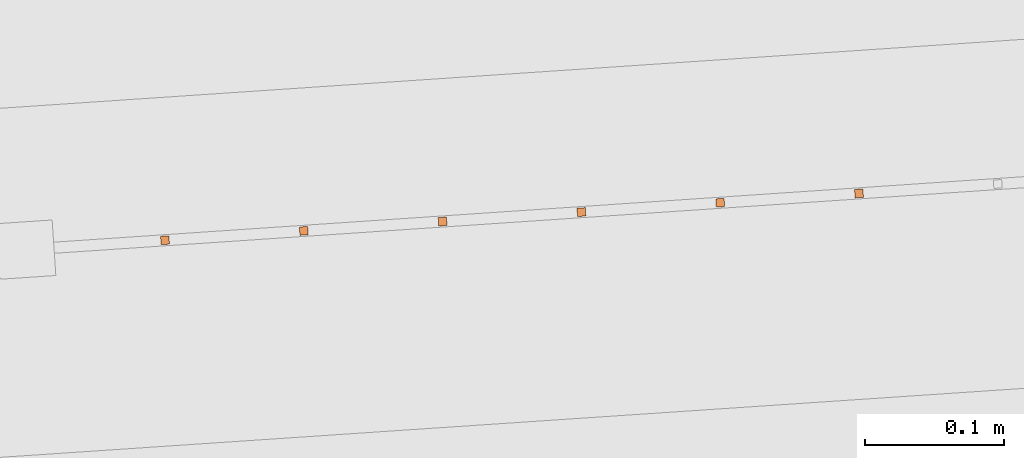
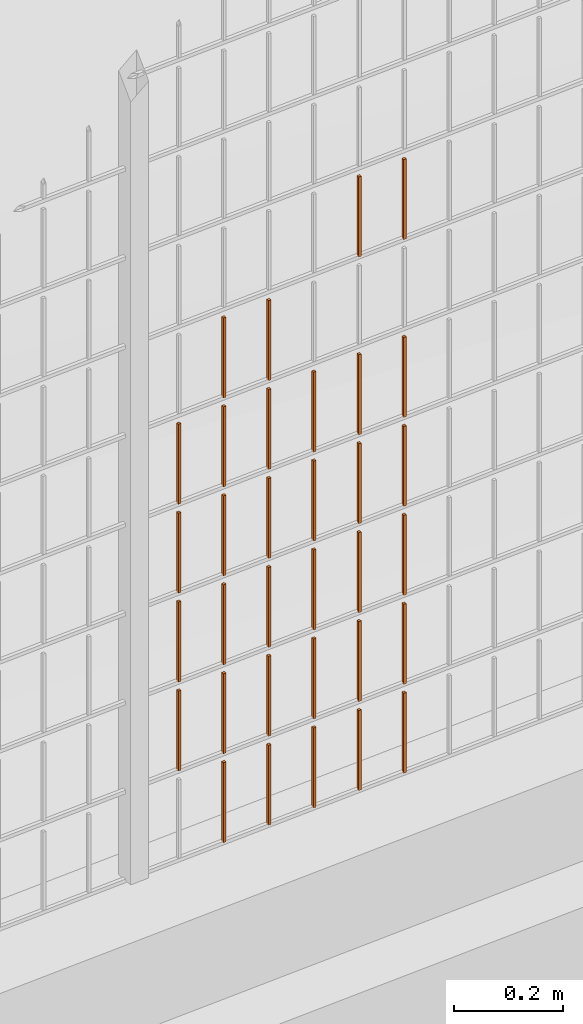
# One storey, part 386 of 1809: 33 proxies, 1 element without a shape of its own.
"""IFC2X3 building model written with IfcOpenShell, lengths in millimetres."""

import ifcopenshell
import ifcopenshell.guid

model = None  # the IFC model being written
_history = None  # IfcOwnerHistory: only IFC2X3 demands one
_inside = {}  # id of a spatial element -> (the spatial element, [elements in it])
_under = {}  # id of a project, library or spatial element -> (it, [spatial elements below it])
_declared = {}  # id of a project -> (the project, [libraries it declares])
_typed = {}  # id of a type object -> (the type object, [elements of that type])
_made_of = {}  # id of a material, layer set ... -> (it, [elements and type objects made of it])


def new_model(schema):
    """Start an empty IFC model of exactly this schema.

    Asked for "IFC4X3", IfcOpenShell would pick the latest addendum, in which some entities
    have other attributes; the version numbers below select the first issue.
    IFC2X3 requires an IfcOwnerHistory on every rooted entity: one is made here for all.
    """
    global model, _history
    if schema == "IFC4X3":
        model = ifcopenshell.file(schema_version=(4, 3, 0, 0))
    else:
        model = ifcopenshell.file(schema=schema)
    _inside.clear()
    _under.clear()
    _declared.clear()
    _typed.clear()
    _made_of.clear()
    _history = None
    if model.schema == "IFC2X3":
        org = make("IfcOrganization", Name="unknown")
        user = make(
            "IfcPersonAndOrganization",
            ThePerson=make("IfcPerson", FamilyName="unknown"),
            TheOrganization=org,
        )
        app = make(
            "IfcApplication",
            ApplicationDeveloper=org,
            Version="unknown",
            ApplicationFullName="unknown",
            ApplicationIdentifier="unknown",
        )
        _history = make(
            "IfcOwnerHistory",
            OwningUser=user,
            OwningApplication=app,
            ChangeAction="ADDED",
            CreationDate=0,
        )
    return model


def make(cls, **values):
    """One entity of the class cls with the attributes given. An attribute that is None is left unset."""
    return model.create_entity(
        cls, **{name: value for name, value in values.items() if value is not None}
    )


def entity(cls, *values):
    """Any entity or typed value of the class cls, its attributes in the order of the schema. None: left unset."""
    e = model.create_entity(cls)
    for i, value in enumerate(values):
        if value is not None:
            e[i] = value
    return e


def rooted(cls, **values):
    """An entity with a GlobalId (a new one), such as an element, a storey or a relation."""
    return make(cls, GlobalId=ifcopenshell.guid.new(), OwnerHistory=_history, **values)


def si_unit(unit_type, name, prefix=None):
    """IfcSIUnit, for example si_unit("LENGTHUNIT", "METRE", prefix="MILLI")."""
    return make("IfcSIUnit", UnitType=unit_type, Prefix=prefix, Name=name)


def converted_unit(unit_type, name, factor, base, dimensions=None, offset=None):
    """IfcConversionBasedUnit, such as the inch: factor (a typed value) times the base unit."""
    return make(
        "IfcConversionBasedUnit"
        if offset is None
        else "IfcConversionBasedUnitWithOffset",
        ConversionOffset=offset,
        Dimensions=None
        if dimensions is None
        else entity("IfcDimensionalExponents", *dimensions),
        UnitType=unit_type,
        Name=name,
        ConversionFactor=make(
            "IfcMeasureWithUnit", ValueComponent=factor, UnitComponent=base
        ),
    )


def derived_unit(unit_type, elements):
    """IfcDerivedUnit: a product of units, each with its exponent."""
    return make(
        "IfcDerivedUnit",
        Elements=[
            make("IfcDerivedUnitElement", Unit=unit, Exponent=power)
            for unit, power in elements
        ],
        UnitType=unit_type,
    )


def money_unit(currency):
    """IfcMonetaryUnit."""
    return make("IfcMonetaryUnit", Currency=currency)


def assignment(units):
    """IfcUnitAssignment: the units of a project."""
    return None if units is None else make("IfcUnitAssignment", Units=units)


def point(xyz):
    """IfcCartesianPoint."""
    return None if xyz is None else make("IfcCartesianPoint", Coordinates=xyz)


def direction(xyz):
    """IfcDirection."""
    return None if xyz is None else make("IfcDirection", DirectionRatios=xyz)


def frame(location, z_axis=None, x_axis=None):
    """IfcAxis2Placement3D, a coordinate frame: its origin and axes. An axis left out is left unset."""
    return make(
        "IfcAxis2Placement3D",
        Location=point(location),
        Axis=direction(z_axis),
        RefDirection=direction(x_axis),
    )


def origin_with_axes():
    """The frame at (0, 0, 0) with the z axis (0, 0, 1) and the x axis (1, 0, 0) written out."""
    return frame((0.0, 0.0, 0.0), z_axis=(0.0, 0.0, 1.0), x_axis=(1.0, 0.0, 0.0))


def place(relative_to, where):
    """IfcLocalPlacement: puts the frame where relative to a parent placement (None: the world)."""
    return make(
        "IfcLocalPlacement", PlacementRelTo=relative_to, RelativePlacement=where
    )


def context(
    kind, dimensions, precision=None, world=None, true_north=None, identifier=None
):
    """IfcGeometricRepresentationContext, for example the 3D "Model" context."""
    return make(
        "IfcGeometricRepresentationContext",
        ContextIdentifier=identifier,
        ContextType=kind,
        CoordinateSpaceDimension=dimensions,
        Precision=precision,
        WorldCoordinateSystem=world,
        TrueNorth=true_north,
    )


def subcontext(parent, identifier, kind, view, scale=None):
    """IfcGeometricRepresentationSubContext, for example "Body" below "Model"."""
    return make(
        "IfcGeometricRepresentationSubContext",
        ContextIdentifier=identifier,
        ContextType=kind,
        ParentContext=parent,
        TargetScale=scale,
        TargetView=view,
    )


def project(units=None, contexts=None):
    """IfcProject with its units and contexts."""
    return rooted(
        "IfcProject",
        Name="project",
        RepresentationContexts=contexts,
        UnitsInContext=assignment(units),
    )


def spatial(cls, under=None, at=None, **own):
    """A site, building, storey or space (cls), placed at a placement, below another one or the project."""
    s = rooted(cls, ObjectPlacement=at, **own)
    if under is not None:
        _under.setdefault(under.id(), (under, []))[1].append(s)
    return s


def faces_of(points, faces, orient=None, outer=None):
    """IfcFace entities. A face is a list of loops; a loop is a list of indices into points, from 0.

    orient and outer hold one flag for each loop. By default every Orientation is true, the
    first loop of a face is its IfcFaceOuterBound and the others are IfcFaceBound.
    """
    made = []
    for i, loops in enumerate(faces):
        bounds = []
        for j, loop in enumerate(loops):
            is_outer = j == 0 if outer is None else outer[i][j]
            bounds.append(
                make(
                    "IfcFaceOuterBound" if is_outer else "IfcFaceBound",
                    Bound=make("IfcPolyLoop", Polygon=[points[k] for k in loop]),
                    Orientation=True if orient is None else orient[i][j],
                )
            )
        made.append(make("IfcFace", Bounds=bounds))
    return made


def faceted_brep(points, faces, orient=None, outer=None, voids=None):
    """IfcFacetedBrep: a solid bounded by flat faces; with voids (closed shells), ...WithVoids."""
    shared = [point(p) for p in points]
    hull = make("IfcClosedShell", CfsFaces=faces_of(shared, faces, orient, outer))
    if voids is None:
        return make("IfcFacetedBrep", Outer=hull)
    return make(
        "IfcFacetedBrepWithVoids",
        Outer=hull,
        Voids=[
            make(cls, CfsFaces=faces_of(shared, fs, o, b)) for cls, fs, o, b in voids
        ],
    )


def shape(context_of_items, identifier, shape_type, items):
    """IfcShapeRepresentation: the items that make up one representation, for example the "Body"."""
    return make(
        "IfcShapeRepresentation",
        ContextOfItems=context_of_items,
        RepresentationIdentifier=identifier,
        RepresentationType=shape_type,
        Items=items,
    )


def source(mapping_origin, context_of_items, identifier, shape_type, items):
    """IfcRepresentationMap: a shape defined once, which mapped items show again and again."""
    return make(
        "IfcRepresentationMap",
        MappingOrigin=mapping_origin,
        MappedRepresentation=shape(context_of_items, identifier, shape_type, items),
    )


def transform(
    local_origin,
    x_axis=None,
    y_axis=None,
    z_axis=None,
    scale=None,
    scale2=None,
    scale3=None,
    uniform=True,
):
    """IfcCartesianTransformationOperator3D, or its non-uniform kind. x_axis, y_axis, z_axis: its Axis1, 2, 3."""
    if uniform:
        return make(
            "IfcCartesianTransformationOperator3D",
            Axis1=direction(x_axis),
            Axis2=direction(y_axis),
            LocalOrigin=point(local_origin),
            Scale=scale,
            Axis3=direction(z_axis),
        )
    return make(
        "IfcCartesianTransformationOperator3DnonUniform",
        Axis1=direction(x_axis),
        Axis2=direction(y_axis),
        LocalOrigin=point(local_origin),
        Scale=scale,
        Axis3=direction(z_axis),
        Scale2=scale2,
        Scale3=scale3,
    )


def mapped(mapping_source, mapping_target):
    """IfcMappedItem: shows the shape of a source again, moved by a transform."""
    return make(
        "IfcMappedItem", MappingSource=mapping_source, MappingTarget=mapping_target
    )


def material(Name=None, Category=None):
    """IfcMaterial."""
    return make("IfcMaterial", Name=Name, Category=Category)


def made_of(thing, what):
    """Note that an element or type object is made of a material, layer set ...; save() writes the relation."""
    if what is not None:
        _made_of.setdefault(what.id(), (what, []))[1].append(thing)
    return thing


def type_object(cls, material=None, **own):
    """A type object (cls), such as IfcWallType, which elements share."""
    return made_of(rooted(cls, **own), material)


def element(
    cls,
    number,
    at=None,
    inside=None,
    cuts=None,
    type_object=None,
    material=None,
    context=None,
    identifier="Body",
    shape_type=None,
    held_by="IfcProductDefinitionShape",
    body=None,
    shapes=None,
    **own,
):
    """One element of the class cls, such as IfcWall. Its Tag is "e" and its number.

    at: its placement. inside: the storey or other place that contains it. cuts: it is an
    opening in that element (IfcRelVoidsElement). A single representation is given by context,
    identifier, shape_type and body (its items); several are given by shapes. held_by: the class
    of the entity that holds the representations. save() writes the other relations.
    """
    e = rooted(cls, Tag="e%d" % number, ObjectPlacement=at, **own)
    if body is not None:
        shapes = [shape(context, identifier, shape_type, body)]
    if shapes is not None:
        e.Representation = make(held_by, Representations=shapes)
    if inside is not None:
        _inside.setdefault(inside.id(), (inside, []))[1].append(e)
    if cuts is not None:
        rooted(
            "IfcRelVoidsElement", RelatingBuildingElement=cuts, RelatedOpeningElement=e
        )
    if type_object is not None:
        _typed.setdefault(type_object.id(), (type_object, []))[1].append(e)
    return made_of(e, material)


def aggregate(whole, parts):
    """IfcRelAggregates: a whole, such as a stair, and the parts it consists of."""
    return rooted("IfcRelAggregates", RelatingObject=whole, RelatedObjects=parts)


def save(model, path):
    """Write the relations noted so far, then the file.

    IfcRelAggregates (storeys below a building ...), IfcRelContainedInSpatialStructure (elements
    in a storey), IfcRelDefinesByType, IfcRelAssociatesMaterial and IfcRelDeclares: one each for
    every whole, place, type object, material and project.
    """
    for whole, parts in _under.values():
        aggregate(whole, parts)
    for where, things in _inside.values():
        rooted(
            "IfcRelContainedInSpatialStructure",
            RelatedElements=things,
            RelatingStructure=where,
        )
    for kind, things in _typed.values():
        rooted("IfcRelDefinesByType", RelatedObjects=things, RelatingType=kind)
    for what, things in _made_of.values():
        rooted("IfcRelAssociatesMaterial", RelatedObjects=things, RelatingMaterial=what)
    for by, libraries in _declared.values():
        rooted("IfcRelDeclares", RelatingContext=by, RelatedDefinitions=libraries)
    model.write(path)


model = new_model("IFC2X3")

# Units and contexts
model_context = context("Model", 3, precision=0.01, world=origin_with_axes(), true_north=direction((0.0, 1.0)))
body_context = subcontext(model_context, "Body", "Model", "MODEL_VIEW")
ifc_project = project(units=[si_unit("LENGTHUNIT", "METRE", prefix="MILLI"), si_unit("AREAUNIT", "SQUARE_METRE"), si_unit("VOLUMEUNIT", "CUBIC_METRE"), converted_unit("PLANEANGLEUNIT", "DEGREE", entity("IfcPlaneAngleMeasure", 0.0174532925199), si_unit("PLANEANGLEUNIT", "RADIAN"), dimensions=[0, 0, 0, 0, 0, 0, 0]), si_unit("SOLIDANGLEUNIT", "STERADIAN"), money_unit("EUR"), converted_unit("TIMEUNIT", "Year", entity("IfcTimeMeasure", 31556926.0), si_unit("TIMEUNIT", "SECOND"), dimensions=[0, 0, 1, 0, 0, 0, 0]), si_unit("MASSUNIT", "GRAM", prefix="KILO"), si_unit("THERMODYNAMICTEMPERATUREUNIT", "DEGREE_CELSIUS"), si_unit("LUMINOUSINTENSITYUNIT", "LUMEN"), si_unit("ENERGYUNIT", "JOULE", prefix="MEGA"), derived_unit("THERMALCONDUCTANCEUNIT", [(si_unit("POWERUNIT", "WATT"), 1), (si_unit("LENGTHUNIT", "METRE"), -1), (si_unit("THERMODYNAMICTEMPERATUREUNIT", "KELVIN"), -1)]), derived_unit("SPECIFICHEATCAPACITYUNIT", [(si_unit("ENERGYUNIT", "JOULE"), 1), (si_unit("MASSUNIT", "GRAM", prefix="KILO"), -1), (si_unit("THERMODYNAMICTEMPERATUREUNIT", "KELVIN"), -1)]), derived_unit("MASSDENSITYUNIT", [(si_unit("MASSUNIT", "GRAM", prefix="KILO"), 1), (si_unit("VOLUMEUNIT", "CUBIC_METRE"), -1)])], contexts=[model_context])

# Site, building, storey
site_placement = place(None, origin_with_axes())
site = spatial("IfcSite", under=ifc_project, at=site_placement, Name="Politse- ja Piirivalveameti ning Päästeameti ühishoone", CompositionType="ELEMENT")
building_placement = place(site_placement, origin_with_axes())
building = spatial("IfcBuilding", under=site, at=building_placement, Name="Politse- ja Piirivalveameti ning Päästeameti ühishoone", CompositionType="ELEMENT")
storey_placement = place(building_placement, origin_with_axes())
storey = spatial("IfcBuildingStorey", under=building, at=storey_placement, Name="Esimene korrus", CompositionType="ELEMENT", Elevation=0.0)

# Proxies
building_element_proxy_type_1 = type_object("IfcBuildingElementProxyType", Name="Railing Type", PredefinedType="NOTDEFINED")
proxy_1_placement = place(storey_placement, frame((89252.001212, -29183.4766571, 203.661247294), z_axis=(0.0, 0.0, 1.0), x_axis=(1.0, 0.0, 0.0)))
proxy_1 = element("IfcBuildingElementProxy", 1, at=proxy_1_placement, inside=storey, type_object=building_element_proxy_type_1, Name="PIIRDEAED")
ifc_material = material(Name="ET-03_Raud")
building_element_proxy_type_2 = type_object("IfcBuildingElementProxyType", Name="IfcBuildingElementProxy", PredefinedType="NOTDEFINED")
shared_shape_1 = source(origin_with_axes(), body_context, "Body", "Brep", [
    faceted_brep([(3.0, 3.0, -0.000752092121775), (-3.0, 3.0, -0.000752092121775), (-3.0, 3.0, 179.99926046), (3.0, 3.0, 179.99926046), (3.0, -3.0, 0.000752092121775), (-3.0, -3.0, 0.000752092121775), (-3.0, -3.0, 180.000764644), (3.0, -3.0, 180.000764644)], [[[0, 1, 2, 3]], [[0, 4, 5, 1]], [[1, 5, 6, 2]], [[3, 2, 6, 7]], [[4, 0, 3, 7]], [[5, 4, 7, 6]]]),
])
proxy_2_placement = place(proxy_1_placement, frame((-14294.1166775, -18263.2883991, 23.6427224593), z_axis=(0.0, 0.0, 1.0), x_axis=(1.0, 0.0, 0.0)))
proxy_2 = element("IfcBuildingElementProxy", 2, at=proxy_2_placement, type_object=building_element_proxy_type_2, material=ifc_material, Name="BALUSTER - 001", context=body_context, shape_type="MappedRepresentation", body=[
    mapped(shared_shape_1, transform((0.0, 0.0, 0.0), x_axis=(-0.0673926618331, 0.997726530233, 0.0), y_axis=(-0.997726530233, -0.0673926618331, 0.0), z_axis=(0.0, 0.0, 1.0))),
])
shared_shape_2 = source(origin_with_axes(), body_context, "Body", "Brep", [
    faceted_brep([(3.0, 3.0, -0.000752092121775), (-3.0, 3.0, -0.000752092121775), (-3.0, 3.0, 179.99926046), (3.0, 3.0, 179.99926046), (3.0, -3.0, 0.000752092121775), (-3.0, -3.0, 0.000752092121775), (-3.0, -3.0, 180.000764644), (3.0, -3.0, 180.000764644)], [[[0, 1, 2, 3]], [[0, 4, 5, 1]], [[1, 5, 6, 2]], [[3, 2, 6, 7]], [[4, 0, 3, 7]], [[5, 4, 7, 6]]]),
])
proxy_3_placement = place(proxy_1_placement, frame((-14294.1166775, -18263.2883991, 223.642722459), z_axis=(0.0, 0.0, 1.0), x_axis=(1.0, 0.0, 0.0)))
proxy_3 = element("IfcBuildingElementProxy", 3, at=proxy_3_placement, type_object=building_element_proxy_type_2, material=ifc_material, Name="BALUSTER - 001", context=body_context, shape_type="MappedRepresentation", body=[
    mapped(shared_shape_2, transform((0.0, 0.0, 0.0), x_axis=(-0.0673926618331, 0.997726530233, 0.0), y_axis=(-0.997726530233, -0.0673926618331, 0.0), z_axis=(0.0, 0.0, 1.0))),
])
shared_shape_3 = source(origin_with_axes(), body_context, "Body", "Brep", [
    faceted_brep([(3.0, 3.0, -0.000752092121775), (-3.0, 3.0, -0.000752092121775), (-3.0, 3.0, 179.99926046), (3.0, 3.0, 179.99926046), (3.0, -3.0, 0.000752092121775), (-3.0, -3.0, 0.000752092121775), (-3.0, -3.0, 180.000764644), (3.0, -3.0, 180.000764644)], [[[0, 1, 2, 3]], [[0, 4, 5, 1]], [[1, 5, 6, 2]], [[3, 2, 6, 7]], [[4, 0, 3, 7]], [[5, 4, 7, 6]]]),
])
proxy_4_placement = place(proxy_1_placement, frame((-14493.6619836, -18276.7669315, 23.5925829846), z_axis=(0.0, 0.0, 1.0), x_axis=(1.0, 0.0, 0.0)))
proxy_4 = element("IfcBuildingElementProxy", 4, at=proxy_4_placement, type_object=building_element_proxy_type_2, material=ifc_material, Name="BALUSTER - 001", context=body_context, shape_type="MappedRepresentation", body=[
    mapped(shared_shape_3, transform((0.0, 0.0, 0.0), x_axis=(-0.0673926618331, 0.997726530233, 0.0), y_axis=(-0.997726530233, -0.0673926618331, 0.0), z_axis=(0.0, 0.0, 1.0))),
])
shared_shape_4 = source(origin_with_axes(), body_context, "Body", "Brep", [
    faceted_brep([(3.0, 3.0, -0.000752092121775), (-3.0, 3.0, -0.000752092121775), (-3.0, 3.0, 179.99926046), (3.0, 3.0, 179.99926046), (3.0, -3.0, 0.000752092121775), (-3.0, -3.0, 0.000752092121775), (-3.0, -3.0, 180.000764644), (3.0, -3.0, 180.000764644)], [[[0, 1, 2, 3]], [[0, 4, 5, 1]], [[1, 5, 6, 2]], [[3, 2, 6, 7]], [[4, 0, 3, 7]], [[5, 4, 7, 6]]]),
])
proxy_5_placement = place(proxy_1_placement, frame((-14393.8893305, -18270.0276653, 23.6176527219), z_axis=(0.0, 0.0, 1.0), x_axis=(1.0, 0.0, 0.0)))
proxy_5 = element("IfcBuildingElementProxy", 5, at=proxy_5_placement, type_object=building_element_proxy_type_2, material=ifc_material, Name="BALUSTER - 001", context=body_context, shape_type="MappedRepresentation", body=[
    mapped(shared_shape_4, transform((0.0, 0.0, 0.0), x_axis=(-0.0673926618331, 0.997726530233, 0.0), y_axis=(-0.997726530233, -0.0673926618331, 0.0), z_axis=(0.0, 0.0, 1.0))),
])
proxy_6_placement = place(proxy_1_placement, frame((-14393.8893305, -18270.0276653, 223.617652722), z_axis=(0.0, 0.0, 1.0), x_axis=(1.0, 0.0, 0.0)))
proxy_6 = element("IfcBuildingElementProxy", 6, at=proxy_6_placement, type_object=building_element_proxy_type_2, material=ifc_material, Name="BALUSTER - 001", context=body_context, shape_type="MappedRepresentation", body=[
    mapped(shared_shape_4, transform((0.0, 0.0, 0.0), x_axis=(-0.0673926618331, 0.997726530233, 0.0), y_axis=(-0.997726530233, -0.0673926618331, 0.0), z_axis=(0.0, 0.0, 1.0))),
])
shared_shape_5 = source(origin_with_axes(), body_context, "Body", "Brep", [
    faceted_brep([(3.0, 3.0, -0.000752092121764), (-3.0, 3.0, -0.000752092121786), (-3.0, 3.0, 179.99926046), (3.0, 3.0, 179.99926046), (3.0, -3.0, 0.000752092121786), (-3.0, -3.0, 0.000752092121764), (-3.0, -3.0, 180.000764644), (3.0, -3.0, 180.000764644)], [[[0, 1, 2, 3]], [[0, 4, 5, 1]], [[1, 5, 6, 2]], [[3, 2, 6, 7]], [[4, 0, 3, 7]], [[5, 4, 7, 6]]]),
])
proxy_7_placement = place(proxy_1_placement, frame((-14593.4346366, -18283.5061977, 23.5675132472), z_axis=(0.0, 0.0, 1.0), x_axis=(1.0, 0.0, 0.0)))
proxy_7 = element("IfcBuildingElementProxy", 7, at=proxy_7_placement, type_object=building_element_proxy_type_2, material=ifc_material, Name="BALUSTER - 001", context=body_context, shape_type="MappedRepresentation", body=[
    mapped(shared_shape_5, transform((0.0, 0.0, 0.0), x_axis=(-0.0673926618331, 0.997726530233, 0.0), y_axis=(-0.997726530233, -0.0673926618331, 0.0), z_axis=(0.0, 0.0, 1.0))),
])
shared_shape_6 = source(origin_with_axes(), body_context, "Body", "Brep", [
    faceted_brep([(3.0, 3.0, -0.000752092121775), (-3.0, 3.0, -0.000752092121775), (-3.0, 3.0, 179.99926046), (3.0, 3.0, 179.99926046), (3.0, -3.0, 0.000752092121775), (-3.0, -3.0, 0.000752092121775), (-3.0, -3.0, 180.000764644), (3.0, -3.0, 180.000764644)], [[[0, 1, 2, 3]], [[0, 4, 5, 1]], [[1, 5, 6, 2]], [[3, 2, 6, 7]], [[4, 0, 3, 7]], [[5, 4, 7, 6]]]),
])
proxy_8_placement = place(proxy_1_placement, frame((-14393.8893305, -18270.0276653, 423.617652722), z_axis=(0.0, 0.0, 1.0), x_axis=(1.0, 0.0, 0.0)))
proxy_8 = element("IfcBuildingElementProxy", 8, at=proxy_8_placement, type_object=building_element_proxy_type_2, material=ifc_material, Name="BALUSTER - 001", context=body_context, shape_type="MappedRepresentation", body=[
    mapped(shared_shape_6, transform((0.0, 0.0, 0.0), x_axis=(-0.0673926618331, 0.997726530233, 0.0), y_axis=(-0.997726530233, -0.0673926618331, 0.0), z_axis=(0.0, 0.0, 1.0))),
])
proxy_9_placement = place(proxy_1_placement, frame((-14493.6619836, -18276.7669315, 423.592582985), z_axis=(0.0, 0.0, 1.0), x_axis=(1.0, 0.0, 0.0)))
proxy_9 = element("IfcBuildingElementProxy", 9, at=proxy_9_placement, type_object=building_element_proxy_type_2, material=ifc_material, Name="BALUSTER - 001", context=body_context, shape_type="MappedRepresentation", body=[
    mapped(shared_shape_6, transform((0.0, 0.0, 0.0), x_axis=(-0.0673926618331, 0.997726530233, 0.0), y_axis=(-0.997726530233, -0.0673926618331, 0.0), z_axis=(0.0, 0.0, 1.0))),
])
shared_shape_7 = source(origin_with_axes(), body_context, "Body", "Brep", [
    faceted_brep([(3.0, 3.0, -0.000752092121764), (-3.0, 3.0, -0.000752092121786), (-3.0, 3.0, 179.99926046), (3.0, 3.0, 179.99926046), (3.0, -3.0, 0.000752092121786), (-3.0, -3.0, 0.000752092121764), (-3.0, -3.0, 180.000764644), (3.0, -3.0, 180.000764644)], [[[0, 1, 2, 3]], [[0, 4, 5, 1]], [[1, 5, 6, 2]], [[3, 2, 6, 7]], [[4, 0, 3, 7]], [[5, 4, 7, 6]]]),
])
proxy_10_placement = place(proxy_1_placement, frame((-14693.2072896, -18290.2454639, 223.54244351), z_axis=(0.0, 0.0, 1.0), x_axis=(1.0, 0.0, 0.0)))
proxy_10 = element("IfcBuildingElementProxy", 10, at=proxy_10_placement, type_object=building_element_proxy_type_2, material=ifc_material, Name="BALUSTER - 001", context=body_context, shape_type="MappedRepresentation", body=[
    mapped(shared_shape_7, transform((0.0, 0.0, 0.0), x_axis=(-0.0673926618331, 0.997726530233, 0.0), y_axis=(-0.997726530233, -0.0673926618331, 0.0), z_axis=(0.0, 0.0, 1.0))),
])
proxy_11_placement = place(proxy_1_placement, frame((-14693.2072896, -18290.2454639, 623.54244351), z_axis=(0.0, 0.0, 1.0), x_axis=(1.0, 0.0, 0.0)))
proxy_11 = element("IfcBuildingElementProxy", 11, at=proxy_11_placement, type_object=building_element_proxy_type_2, material=ifc_material, Name="BALUSTER - 001", context=body_context, shape_type="MappedRepresentation", body=[
    mapped(shared_shape_7, transform((0.0, 0.0, 0.0), x_axis=(-0.0673926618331, 0.997726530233, 0.0), y_axis=(-0.997726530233, -0.0673926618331, 0.0), z_axis=(0.0, 0.0, 1.0))),
])
shared_shape_8 = source(origin_with_axes(), body_context, "Body", "Brep", [
    faceted_brep([(3.0, 3.0, -0.000752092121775), (-3.0, 3.0, -0.000752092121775), (-3.0, 3.0, 179.99926046), (3.0, 3.0, 179.99926046), (3.0, -3.0, 0.000752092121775), (-3.0, -3.0, 0.000752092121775), (-3.0, -3.0, 180.000764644), (3.0, -3.0, 180.000764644)], [[[0, 1, 2, 3]], [[0, 4, 5, 1]], [[1, 5, 6, 2]], [[3, 2, 6, 7]], [[4, 0, 3, 7]], [[5, 4, 7, 6]]]),
])
proxy_12_placement = place(proxy_1_placement, frame((-14294.1166775, -18263.2883991, 423.642722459), z_axis=(0.0, 0.0, 1.0), x_axis=(1.0, 0.0, 0.0)))
proxy_12 = element("IfcBuildingElementProxy", 12, at=proxy_12_placement, type_object=building_element_proxy_type_2, material=ifc_material, Name="BALUSTER - 001", context=body_context, shape_type="MappedRepresentation", body=[
    mapped(shared_shape_8, transform((0.0, 0.0, 0.0), x_axis=(-0.0673926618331, 0.997726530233, 0.0), y_axis=(-0.997726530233, -0.0673926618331, 0.0), z_axis=(0.0, 0.0, 1.0))),
])
shared_shape_9 = source(origin_with_axes(), body_context, "Body", "Brep", [
    faceted_brep([(3.0, 3.0, -0.000752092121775), (-3.0, 3.0, -0.000752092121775), (-3.0, 3.0, 179.99926046), (3.0, 3.0, 179.99926046), (3.0, -3.0, 0.000752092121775), (-3.0, -3.0, 0.000752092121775), (-3.0, -3.0, 180.000764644), (3.0, -3.0, 180.000764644)], [[[0, 1, 2, 3]], [[0, 4, 5, 1]], [[1, 5, 6, 2]], [[3, 2, 6, 7]], [[4, 0, 3, 7]], [[5, 4, 7, 6]]]),
])
proxy_13_placement = place(proxy_1_placement, frame((-14194.3440245, -18256.5491329, 423.667792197), z_axis=(0.0, 0.0, 1.0), x_axis=(1.0, 0.0, 0.0)))
proxy_13 = element("IfcBuildingElementProxy", 13, at=proxy_13_placement, type_object=building_element_proxy_type_2, material=ifc_material, Name="BALUSTER - 001", context=body_context, shape_type="MappedRepresentation", body=[
    mapped(shared_shape_9, transform((0.0, 0.0, 0.0), x_axis=(-0.0673926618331, 0.997726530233, 0.0), y_axis=(-0.997726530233, -0.0673926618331, 0.0), z_axis=(0.0, 0.0, 1.0))),
])
shared_shape_10 = source(origin_with_axes(), body_context, "Body", "Brep", [
    faceted_brep([(3.0, 3.0, -0.000752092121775), (-3.0, 3.0, -0.000752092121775), (-3.0, 3.0, 179.99926046), (3.0, 3.0, 179.99926046), (3.0, -3.0, 0.000752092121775), (-3.0, -3.0, 0.000752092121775), (-3.0, -3.0, 180.000764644), (3.0, -3.0, 180.000764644)], [[[0, 1, 2, 3]], [[0, 4, 5, 1]], [[1, 5, 6, 2]], [[3, 2, 6, 7]], [[4, 0, 3, 7]], [[5, 4, 7, 6]]]),
])
proxy_14_placement = place(proxy_1_placement, frame((-14294.1166775, -18263.2883991, 823.642722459), z_axis=(0.0, 0.0, 1.0), x_axis=(1.0, 0.0, 0.0)))
proxy_14 = element("IfcBuildingElementProxy", 14, at=proxy_14_placement, type_object=building_element_proxy_type_2, material=ifc_material, Name="BALUSTER - 001", context=body_context, shape_type="MappedRepresentation", body=[
    mapped(shared_shape_10, transform((0.0, 0.0, 0.0), x_axis=(-0.0673926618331, 0.997726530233, 0.0), y_axis=(-0.997726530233, -0.0673926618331, 0.0), z_axis=(0.0, 0.0, 1.0))),
])
shared_shape_11 = source(origin_with_axes(), body_context, "Body", "Brep", [
    faceted_brep([(3.0, 3.0, -0.000752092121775), (-3.0, 3.0, -0.000752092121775), (-3.0, 3.0, 179.99926046), (3.0, 3.0, 179.99926046), (3.0, -3.0, 0.000752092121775), (-3.0, -3.0, 0.000752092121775), (-3.0, -3.0, 180.000764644), (3.0, -3.0, 180.000764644)], [[[0, 1, 2, 3]], [[0, 4, 5, 1]], [[1, 5, 6, 2]], [[3, 2, 6, 7]], [[4, 0, 3, 7]], [[5, 4, 7, 6]]]),
])
proxy_15_placement = place(proxy_1_placement, frame((-14493.6619836, -18276.7669315, 823.592582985), z_axis=(0.0, 0.0, 1.0), x_axis=(1.0, 0.0, 0.0)))
proxy_15 = element("IfcBuildingElementProxy", 15, at=proxy_15_placement, type_object=building_element_proxy_type_2, material=ifc_material, Name="BALUSTER - 001", context=body_context, shape_type="MappedRepresentation", body=[
    mapped(shared_shape_11, transform((0.0, 0.0, 0.0), x_axis=(-0.0673926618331, 0.997726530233, 0.0), y_axis=(-0.997726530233, -0.0673926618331, 0.0), z_axis=(0.0, 0.0, 1.0))),
])
shared_shape_12 = source(origin_with_axes(), body_context, "Body", "Brep", [
    faceted_brep([(3.0, 3.0, -0.000752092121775), (-3.0, 3.0, -0.000752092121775), (-3.0, 3.0, 179.99926046), (3.0, 3.0, 179.99926046), (3.0, -3.0, 0.000752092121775), (-3.0, -3.0, 0.000752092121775), (-3.0, -3.0, 180.000764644), (3.0, -3.0, 180.000764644)], [[[0, 1, 2, 3]], [[0, 4, 5, 1]], [[1, 5, 6, 2]], [[3, 2, 6, 7]], [[4, 0, 3, 7]], [[5, 4, 7, 6]]]),
])
proxy_16_placement = place(proxy_1_placement, frame((-14393.8893305, -18270.0276653, 623.617652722), z_axis=(0.0, 0.0, 1.0), x_axis=(1.0, 0.0, 0.0)))
proxy_16 = element("IfcBuildingElementProxy", 16, at=proxy_16_placement, type_object=building_element_proxy_type_2, material=ifc_material, Name="BALUSTER - 001", context=body_context, shape_type="MappedRepresentation", body=[
    mapped(shared_shape_12, transform((0.0, 0.0, 0.0), x_axis=(-0.0673926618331, 0.997726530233, 0.0), y_axis=(-0.997726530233, -0.0673926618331, 0.0), z_axis=(0.0, 0.0, 1.0))),
])
shared_shape_13 = source(origin_with_axes(), body_context, "Body", "Brep", [
    faceted_brep([(3.0, 3.0, -0.000752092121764), (-3.0, 3.0, -0.000752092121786), (-3.0, 3.0, 179.99926046), (3.0, 3.0, 179.99926046), (3.0, -3.0, 0.000752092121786), (-3.0, -3.0, 0.000752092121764), (-3.0, -3.0, 180.000764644), (3.0, -3.0, 180.000764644)], [[[0, 1, 2, 3]], [[0, 4, 5, 1]], [[1, 5, 6, 2]], [[3, 2, 6, 7]], [[4, 0, 3, 7]], [[5, 4, 7, 6]]]),
])
proxy_17_placement = place(proxy_1_placement, frame((-14593.4346366, -18283.5061977, 823.567513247), z_axis=(0.0, 0.0, 1.0), x_axis=(1.0, 0.0, 0.0)))
proxy_17 = element("IfcBuildingElementProxy", 17, at=proxy_17_placement, type_object=building_element_proxy_type_2, material=ifc_material, Name="BALUSTER - 001", context=body_context, shape_type="MappedRepresentation", body=[
    mapped(shared_shape_13, transform((0.0, 0.0, 0.0), x_axis=(-0.0673926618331, 0.997726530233, 0.0), y_axis=(-0.997726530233, -0.0673926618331, 0.0), z_axis=(0.0, 0.0, 1.0))),
])
proxy_18_placement = place(proxy_1_placement, frame((-14194.3440245, -18256.5491329, 1223.6677922), z_axis=(0.0, 0.0, 1.0), x_axis=(1.0, 0.0, 0.0)))
proxy_18 = element("IfcBuildingElementProxy", 18, at=proxy_18_placement, type_object=building_element_proxy_type_2, material=ifc_material, Name="BALUSTER - 001", context=body_context, shape_type="MappedRepresentation", body=[
    mapped(shared_shape_13, transform((0.0, 0.0, 0.0), x_axis=(-0.0673926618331, 0.997726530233, 0.0), y_axis=(-0.997726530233, -0.0673926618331, 0.0), z_axis=(0.0, 0.0, 1.0))),
])
proxy_19_placement = place(proxy_1_placement, frame((-14294.1166775, -18263.2883991, 1223.64272246), z_axis=(0.0, 0.0, 1.0), x_axis=(1.0, 0.0, 0.0)))
proxy_19 = element("IfcBuildingElementProxy", 19, at=proxy_19_placement, type_object=building_element_proxy_type_2, material=ifc_material, Name="BALUSTER - 001", context=body_context, shape_type="MappedRepresentation", body=[
    mapped(shared_shape_13, transform((0.0, 0.0, 0.0), x_axis=(-0.0673926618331, 0.997726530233, 0.0), y_axis=(-0.997726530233, -0.0673926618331, 0.0), z_axis=(0.0, 0.0, 1.0))),
])
shared_shape_14 = source(origin_with_axes(), body_context, "Body", "Brep", [
    faceted_brep([(3.0, 3.0, -0.000752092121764), (-3.0, 3.0, -0.000752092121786), (-3.0, 3.0, 179.99926046), (3.0, 3.0, 179.99926046), (3.0, -3.0, 0.000752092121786), (-3.0, -3.0, 0.000752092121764), (-3.0, -3.0, 180.000764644), (3.0, -3.0, 180.000764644)], [[[0, 1, 2, 3]], [[0, 4, 5, 1]], [[1, 5, 6, 2]], [[3, 2, 6, 7]], [[4, 0, 3, 7]], [[5, 4, 7, 6]]]),
])
proxy_20_placement = place(proxy_1_placement, frame((-14693.2072896, -18290.2454639, 823.54244351), z_axis=(0.0, 0.0, 1.0), x_axis=(1.0, 0.0, 0.0)))
proxy_20 = element("IfcBuildingElementProxy", 20, at=proxy_20_placement, type_object=building_element_proxy_type_2, material=ifc_material, Name="BALUSTER - 001", context=body_context, shape_type="MappedRepresentation", body=[
    mapped(shared_shape_14, transform((0.0, 0.0, 0.0), x_axis=(-0.0673926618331, 0.997726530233, 0.0), y_axis=(-0.997726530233, -0.0673926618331, 0.0), z_axis=(0.0, 0.0, 1.0))),
])
shared_shape_15 = source(origin_with_axes(), body_context, "Body", "Brep", [
    faceted_brep([(3.0, 3.0, -0.000752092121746), (-3.0, 3.0, -0.000752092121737), (-3.00000000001, 2.99999999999, 179.99926046), (2.99999999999, 2.99999999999, 179.99926046), (3.0, -3.0, 0.000752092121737), (-3.0, -3.0, 0.000752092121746), (-3.00000000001, -3.00000000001, 180.000764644), (2.99999999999, -3.00000000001, 180.000764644)], [[[0, 1, 2, 3]], [[0, 4, 5, 1]], [[1, 5, 6, 2]], [[3, 2, 6, 7]], [[4, 0, 3, 7]], [[5, 4, 7, 6]]]),
])
proxy_21_placement = place(proxy_1_placement, frame((-14593.4346366, -18283.5061977, 1023.56751325), z_axis=(0.0, 0.0, 1.0), x_axis=(1.0, 0.0, 0.0)))
proxy_21 = element("IfcBuildingElementProxy", 21, at=proxy_21_placement, type_object=building_element_proxy_type_2, material=ifc_material, Name="BALUSTER - 001", context=body_context, shape_type="MappedRepresentation", body=[
    mapped(shared_shape_15, transform((0.0, 0.0, 0.0), x_axis=(-0.0673926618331, 0.997726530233, 0.0), y_axis=(-0.997726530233, -0.0673926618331, 0.0), z_axis=(0.0, 0.0, 1.0))),
])
shared_shape_16 = source(origin_with_axes(), body_context, "Body", "Brep", [
    faceted_brep([(3.0, 3.0, -0.000752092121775), (-3.0, 3.0, -0.000752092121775), (-3.0, 3.0, 179.99926046), (3.0, 3.0, 179.99926046), (3.0, -3.0, 0.000752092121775), (-3.0, -3.0, 0.000752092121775), (-3.0, -3.0, 180.000764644), (3.0, -3.0, 180.000764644)], [[[0, 1, 2, 3]], [[0, 4, 5, 1]], [[1, 5, 6, 2]], [[3, 2, 6, 7]], [[4, 0, 3, 7]], [[5, 4, 7, 6]]]),
])
proxy_22_placement = place(proxy_1_placement, frame((-14393.8893305, -18270.0276653, 823.617652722), z_axis=(0.0, 0.0, 1.0), x_axis=(1.0, 0.0, 0.0)))
proxy_22 = element("IfcBuildingElementProxy", 22, at=proxy_22_placement, type_object=building_element_proxy_type_2, material=ifc_material, Name="BALUSTER - 001", context=body_context, shape_type="MappedRepresentation", body=[
    mapped(shared_shape_16, transform((0.0, 0.0, 0.0), x_axis=(-0.0673926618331, 0.997726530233, 0.0), y_axis=(-0.997726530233, -0.0673926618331, 0.0), z_axis=(0.0, 0.0, 1.0))),
])
shared_shape_17 = source(origin_with_axes(), body_context, "Body", "Brep", [
    faceted_brep([(3.0, 3.0, -0.000752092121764), (-3.0, 3.0, -0.000752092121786), (-3.0, 3.0, 179.99926046), (3.0, 3.0, 179.99926046), (3.0, -3.0, 0.000752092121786), (-3.0, -3.0, 0.000752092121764), (-3.0, -3.0, 180.000764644), (3.0, -3.0, 180.000764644)], [[[0, 1, 2, 3]], [[0, 4, 5, 1]], [[1, 5, 6, 2]], [[3, 2, 6, 7]], [[4, 0, 3, 7]], [[5, 4, 7, 6]]]),
])
proxy_23_placement = place(proxy_1_placement, frame((-14593.4346366, -18283.5061977, 623.567513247), z_axis=(0.0, 0.0, 1.0), x_axis=(1.0, 0.0, 0.0)))
proxy_23 = element("IfcBuildingElementProxy", 23, at=proxy_23_placement, type_object=building_element_proxy_type_2, material=ifc_material, Name="BALUSTER - 001", context=body_context, shape_type="MappedRepresentation", body=[
    mapped(shared_shape_17, transform((0.0, 0.0, 0.0), x_axis=(-0.0673926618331, 0.997726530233, 0.0), y_axis=(-0.997726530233, -0.0673926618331, 0.0), z_axis=(0.0, 0.0, 1.0))),
])
shared_shape_18 = source(origin_with_axes(), body_context, "Body", "Brep", [
    faceted_brep([(3.0, 3.0, -0.000752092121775), (-3.0, 3.0, -0.000752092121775), (-3.0, 3.0, 179.99926046), (3.0, 3.0, 179.99926046), (3.0, -3.0, 0.000752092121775), (-3.0, -3.0, 0.000752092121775), (-3.0, -3.0, 180.000764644), (3.0, -3.0, 180.000764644)], [[[0, 1, 2, 3]], [[0, 4, 5, 1]], [[1, 5, 6, 2]], [[3, 2, 6, 7]], [[4, 0, 3, 7]], [[5, 4, 7, 6]]]),
])
proxy_24_placement = place(proxy_1_placement, frame((-14194.3440245, -18256.5491329, 23.6677921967), z_axis=(0.0, 0.0, 1.0), x_axis=(1.0, 0.0, 0.0)))
proxy_24 = element("IfcBuildingElementProxy", 24, at=proxy_24_placement, type_object=building_element_proxy_type_2, material=ifc_material, Name="BALUSTER - 001", context=body_context, shape_type="MappedRepresentation", body=[
    mapped(shared_shape_18, transform((0.0, 0.0, 0.0), x_axis=(-0.0673926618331, 0.997726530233, 0.0), y_axis=(-0.997726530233, -0.0673926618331, 0.0), z_axis=(0.0, 0.0, 1.0))),
])
shared_shape_19 = source(origin_with_axes(), body_context, "Body", "Brep", [
    faceted_brep([(3.0, 3.0, -0.000752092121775), (-3.0, 3.0, -0.000752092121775), (-3.0, 3.0, 179.99926046), (3.0, 3.0, 179.99926046), (3.0, -3.0, 0.000752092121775), (-3.0, -3.0, 0.000752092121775), (-3.0, -3.0, 180.000764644), (3.0, -3.0, 180.000764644)], [[[0, 1, 2, 3]], [[0, 4, 5, 1]], [[1, 5, 6, 2]], [[3, 2, 6, 7]], [[4, 0, 3, 7]], [[5, 4, 7, 6]]]),
])
proxy_25_placement = place(proxy_1_placement, frame((-14194.3440245, -18256.5491329, 223.667792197), z_axis=(0.0, 0.0, 1.0), x_axis=(1.0, 0.0, 0.0)))
proxy_25 = element("IfcBuildingElementProxy", 25, at=proxy_25_placement, type_object=building_element_proxy_type_2, material=ifc_material, Name="BALUSTER - 001", context=body_context, shape_type="MappedRepresentation", body=[
    mapped(shared_shape_19, transform((0.0, 0.0, 0.0), x_axis=(-0.0673926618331, 0.997726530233, 0.0), y_axis=(-0.997726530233, -0.0673926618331, 0.0), z_axis=(0.0, 0.0, 1.0))),
])
shared_shape_20 = source(origin_with_axes(), body_context, "Body", "Brep", [
    faceted_brep([(3.0, 3.0, -0.000752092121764), (-3.0, 3.0, -0.000752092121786), (-3.0, 3.0, 179.99926046), (3.0, 3.0, 179.99926046), (3.0, -3.0, 0.000752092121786), (-3.0, -3.0, 0.000752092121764), (-3.0, -3.0, 180.000764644), (3.0, -3.0, 180.000764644)], [[[0, 1, 2, 3]], [[0, 4, 5, 1]], [[1, 5, 6, 2]], [[3, 2, 6, 7]], [[4, 0, 3, 7]], [[5, 4, 7, 6]]]),
])
proxy_26_placement = place(proxy_1_placement, frame((-14593.4346366, -18283.5061977, 223.567513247), z_axis=(0.0, 0.0, 1.0), x_axis=(1.0, 0.0, 0.0)))
proxy_26 = element("IfcBuildingElementProxy", 26, at=proxy_26_placement, type_object=building_element_proxy_type_2, material=ifc_material, Name="BALUSTER - 001", context=body_context, shape_type="MappedRepresentation", body=[
    mapped(shared_shape_20, transform((0.0, 0.0, 0.0), x_axis=(-0.0673926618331, 0.997726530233, 0.0), y_axis=(-0.997726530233, -0.0673926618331, 0.0), z_axis=(0.0, 0.0, 1.0))),
])
proxy_27_placement = place(proxy_1_placement, frame((-14593.4346366, -18283.5061977, 423.567513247), z_axis=(0.0, 0.0, 1.0), x_axis=(1.0, 0.0, 0.0)))
proxy_27 = element("IfcBuildingElementProxy", 27, at=proxy_27_placement, type_object=building_element_proxy_type_2, material=ifc_material, Name="BALUSTER - 001", context=body_context, shape_type="MappedRepresentation", body=[
    mapped(shared_shape_20, transform((0.0, 0.0, 0.0), x_axis=(-0.0673926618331, 0.997726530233, 0.0), y_axis=(-0.997726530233, -0.0673926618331, 0.0), z_axis=(0.0, 0.0, 1.0))),
])
shared_shape_21 = source(origin_with_axes(), body_context, "Body", "Brep", [
    faceted_brep([(3.0, 3.0, -0.000752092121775), (-3.0, 3.0, -0.000752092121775), (-3.0, 3.0, 179.99926046), (3.0, 3.0, 179.99926046), (3.0, -3.0, 0.000752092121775), (-3.0, -3.0, 0.000752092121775), (-3.0, -3.0, 180.000764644), (3.0, -3.0, 180.000764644)], [[[0, 1, 2, 3]], [[0, 4, 5, 1]], [[1, 5, 6, 2]], [[3, 2, 6, 7]], [[4, 0, 3, 7]], [[5, 4, 7, 6]]]),
])
proxy_28_placement = place(proxy_1_placement, frame((-14493.6619836, -18276.7669315, 223.592582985), z_axis=(0.0, 0.0, 1.0), x_axis=(1.0, 0.0, 0.0)))
proxy_28 = element("IfcBuildingElementProxy", 28, at=proxy_28_placement, type_object=building_element_proxy_type_2, material=ifc_material, Name="BALUSTER - 001", context=body_context, shape_type="MappedRepresentation", body=[
    mapped(shared_shape_21, transform((0.0, 0.0, 0.0), x_axis=(-0.0673926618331, 0.997726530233, 0.0), y_axis=(-0.997726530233, -0.0673926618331, 0.0), z_axis=(0.0, 0.0, 1.0))),
])
shared_shape_22 = source(origin_with_axes(), body_context, "Body", "Brep", [
    faceted_brep([(3.0, 3.0, -0.000752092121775), (-3.0, 3.0, -0.000752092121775), (-3.0, 3.0, 179.99926046), (3.0, 3.0, 179.99926046), (3.0, -3.0, 0.000752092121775), (-3.0, -3.0, 0.000752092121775), (-3.0, -3.0, 180.000764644), (3.0, -3.0, 180.000764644)], [[[0, 1, 2, 3]], [[0, 4, 5, 1]], [[1, 5, 6, 2]], [[3, 2, 6, 7]], [[4, 0, 3, 7]], [[5, 4, 7, 6]]]),
])
proxy_29_placement = place(proxy_1_placement, frame((-14493.6619836, -18276.7669315, 623.592582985), z_axis=(0.0, 0.0, 1.0), x_axis=(1.0, 0.0, 0.0)))
proxy_29 = element("IfcBuildingElementProxy", 29, at=proxy_29_placement, type_object=building_element_proxy_type_2, material=ifc_material, Name="BALUSTER - 001", context=body_context, shape_type="MappedRepresentation", body=[
    mapped(shared_shape_22, transform((0.0, 0.0, 0.0), x_axis=(-0.0673926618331, 0.997726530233, 0.0), y_axis=(-0.997726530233, -0.0673926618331, 0.0), z_axis=(0.0, 0.0, 1.0))),
])
shared_shape_23 = source(origin_with_axes(), body_context, "Body", "Brep", [
    faceted_brep([(3.0, 3.0, -0.000752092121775), (-3.0, 3.0, -0.000752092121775), (-3.0, 3.0, 179.99926046), (3.0, 3.0, 179.99926046), (3.0, -3.0, 0.000752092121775), (-3.0, -3.0, 0.000752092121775), (-3.0, -3.0, 180.000764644), (3.0, -3.0, 180.000764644)], [[[0, 1, 2, 3]], [[0, 4, 5, 1]], [[1, 5, 6, 2]], [[3, 2, 6, 7]], [[4, 0, 3, 7]], [[5, 4, 7, 6]]]),
])
proxy_30_placement = place(proxy_1_placement, frame((-14194.3440245, -18256.5491329, 823.667792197), z_axis=(0.0, 0.0, 1.0), x_axis=(1.0, 0.0, 0.0)))
proxy_30 = element("IfcBuildingElementProxy", 30, at=proxy_30_placement, type_object=building_element_proxy_type_2, material=ifc_material, Name="BALUSTER - 001", context=body_context, shape_type="MappedRepresentation", body=[
    mapped(shared_shape_23, transform((0.0, 0.0, 0.0), x_axis=(-0.0673926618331, 0.997726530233, 0.0), y_axis=(-0.997726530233, -0.0673926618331, 0.0), z_axis=(0.0, 0.0, 1.0))),
])
shared_shape_24 = source(origin_with_axes(), body_context, "Body", "Brep", [
    faceted_brep([(3.0, 3.0, -0.000752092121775), (-3.0, 3.0, -0.000752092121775), (-3.0, 3.0, 179.99926046), (3.0, 3.0, 179.99926046), (3.0, -3.0, 0.000752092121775), (-3.0, -3.0, 0.000752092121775), (-3.0, -3.0, 180.000764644), (3.0, -3.0, 180.000764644)], [[[0, 1, 2, 3]], [[0, 4, 5, 1]], [[1, 5, 6, 2]], [[3, 2, 6, 7]], [[4, 0, 3, 7]], [[5, 4, 7, 6]]]),
])
proxy_31_placement = place(proxy_1_placement, frame((-14194.3440245, -18256.5491329, 623.667792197), z_axis=(0.0, 0.0, 1.0), x_axis=(1.0, 0.0, 0.0)))
proxy_31 = element("IfcBuildingElementProxy", 31, at=proxy_31_placement, type_object=building_element_proxy_type_2, material=ifc_material, Name="BALUSTER - 001", context=body_context, shape_type="MappedRepresentation", body=[
    mapped(shared_shape_24, transform((0.0, 0.0, 0.0), x_axis=(-0.0673926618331, 0.997726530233, 0.0), y_axis=(-0.997726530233, -0.0673926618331, 0.0), z_axis=(0.0, 0.0, 1.0))),
])
shared_shape_25 = source(origin_with_axes(), body_context, "Body", "Brep", [
    faceted_brep([(3.0, 3.0, -0.000752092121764), (-3.0, 3.0, -0.000752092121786), (-3.0, 3.0, 179.99926046), (3.0, 3.0, 179.99926046), (3.0, -3.0, 0.000752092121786), (-3.0, -3.0, 0.000752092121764), (-3.0, -3.0, 180.000764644), (3.0, -3.0, 180.000764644)], [[[0, 1, 2, 3]], [[0, 4, 5, 1]], [[1, 5, 6, 2]], [[3, 2, 6, 7]], [[4, 0, 3, 7]], [[5, 4, 7, 6]]]),
])
proxy_32_placement = place(proxy_1_placement, frame((-14693.2072896, -18290.2454639, 423.54244351), z_axis=(0.0, 0.0, 1.0), x_axis=(1.0, 0.0, 0.0)))
proxy_32 = element("IfcBuildingElementProxy", 32, at=proxy_32_placement, type_object=building_element_proxy_type_2, material=ifc_material, Name="BALUSTER - 001", context=body_context, shape_type="MappedRepresentation", body=[
    mapped(shared_shape_25, transform((0.0, 0.0, 0.0), x_axis=(-0.0673926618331, 0.997726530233, 0.0), y_axis=(-0.997726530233, -0.0673926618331, 0.0), z_axis=(0.0, 0.0, 1.0))),
])
shared_shape_26 = source(origin_with_axes(), body_context, "Body", "Brep", [
    faceted_brep([(3.0, 3.0, -0.000752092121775), (-3.0, 3.0, -0.000752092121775), (-3.0, 3.0, 179.99926046), (3.0, 3.0, 179.99926046), (3.0, -3.0, 0.000752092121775), (-3.0, -3.0, 0.000752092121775), (-3.0, -3.0, 180.000764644), (3.0, -3.0, 180.000764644)], [[[0, 1, 2, 3]], [[0, 4, 5, 1]], [[1, 5, 6, 2]], [[3, 2, 6, 7]], [[4, 0, 3, 7]], [[5, 4, 7, 6]]]),
])
proxy_33_placement = place(proxy_1_placement, frame((-14294.1166775, -18263.2883991, 623.642722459), z_axis=(0.0, 0.0, 1.0), x_axis=(1.0, 0.0, 0.0)))
proxy_33 = element("IfcBuildingElementProxy", 33, at=proxy_33_placement, type_object=building_element_proxy_type_2, material=ifc_material, Name="BALUSTER - 001", context=body_context, shape_type="MappedRepresentation", body=[
    mapped(shared_shape_26, transform((0.0, 0.0, 0.0), x_axis=(-0.0673926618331, 0.997726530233, 0.0), y_axis=(-0.997726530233, -0.0673926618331, 0.0), z_axis=(0.0, 0.0, 1.0))),
])
shared_shape_27 = source(origin_with_axes(), body_context, "Body", "Brep", [
    faceted_brep([(3.0, 3.0, -0.000752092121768), (-3.0, 3.0, -0.000752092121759), (-3.00000000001, 2.99999999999, 179.99926046), (2.99999999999, 2.99999999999, 179.99926046), (3.0, -3.0, 0.000752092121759), (-3.0, -3.0, 0.000752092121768), (-3.00000000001, -3.00000000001, 180.000764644), (2.99999999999, -3.00000000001, 180.000764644)], [[[0, 1, 2, 3]], [[0, 4, 5, 1]], [[1, 5, 6, 2]], [[3, 2, 6, 7]], [[4, 0, 3, 7]], [[5, 4, 7, 6]]]),
])
proxy_34_placement = place(proxy_1_placement, frame((-14493.6619836, -18276.7669315, 1023.59258298), z_axis=(0.0, 0.0, 1.0), x_axis=(1.0, 0.0, 0.0)))
proxy_34 = element("IfcBuildingElementProxy", 34, at=proxy_34_placement, type_object=building_element_proxy_type_2, material=ifc_material, Name="BALUSTER - 001", context=body_context, shape_type="MappedRepresentation", body=[
    mapped(shared_shape_27, transform((0.0, 0.0, 0.0), x_axis=(-0.0673926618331, 0.997726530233, 0.0), y_axis=(-0.997726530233, -0.0673926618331, 0.0), z_axis=(0.0, 0.0, 1.0))),
])
aggregate(proxy_1, [proxy_24, proxy_2, proxy_5, proxy_4, proxy_7, proxy_25, proxy_3, proxy_6, proxy_28, proxy_26, proxy_10, proxy_13, proxy_12, proxy_8, proxy_9, proxy_27, proxy_32, proxy_31, proxy_33, proxy_16, proxy_29, proxy_23, proxy_11, proxy_30, proxy_14, proxy_22, proxy_15, proxy_17, proxy_20, proxy_34, proxy_21, proxy_18, proxy_19])

save(model, "model.ifc")
